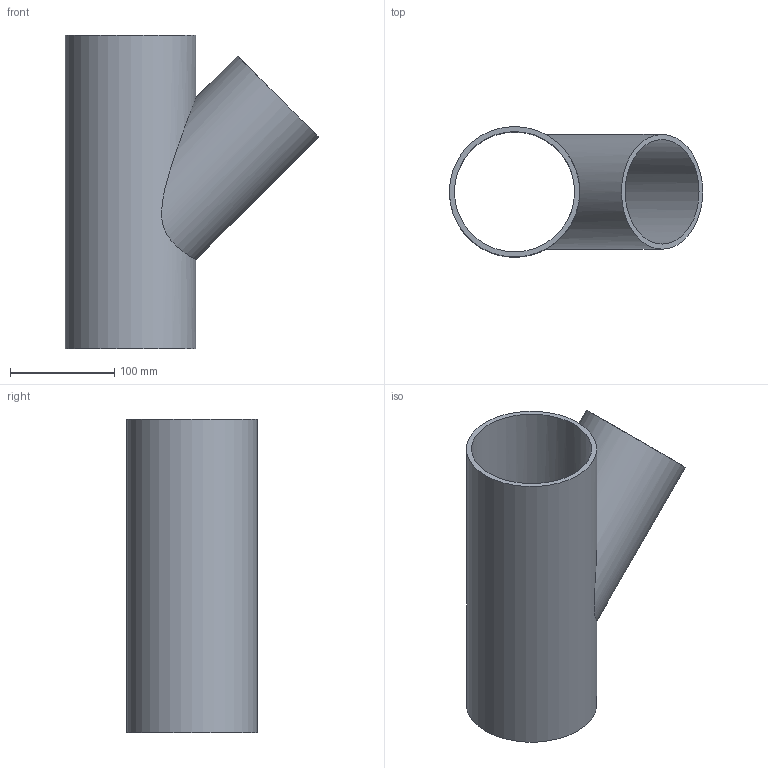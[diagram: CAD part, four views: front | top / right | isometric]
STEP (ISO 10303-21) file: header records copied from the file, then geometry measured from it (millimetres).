
FILE_DESCRIPTION(/* description */ (''),/* implementation_level */ '2;1');
FILE_NAME(/* name */ 'C:\Planerdaten\Export PLA\PRO_101557\stp\368135.stp',/* time_stamp */ '2021-09-30T15:07:29+02:00',/* author */ ('JANAN'),/* organization */ (''),/* preprocessor_version */ 'ST-DEVELOPER v16.13',/* originating_system */ 'Autodesk Inventor 2018',/* authorisation */ '');
FILE_SCHEMA (('AUTOMOTIVE_DESIGN { 1 0 10303 214 3 1 1 }'));
Length unit declared in the file: millimetre
Products named in the file (1): tmpA9BE.tmp
Bounding box: 242.81 x 125 x 300 mm (x, y, z)
Volume: 704702.5 mm3; surface area: 292626.9 mm2
Topology: 1 solids, 1 shells, 7 faces, 17 edges, 12 vertices
Faces by surface type: cylinder 4, plane 3
Full cylindrical faces by diameter (mm): 100.2 x1, 110 x1, 115.2 x1, 125 x1
Entity records: 376 total; most frequent: CARTESIAN_POINT 198, DIRECTION 28, EDGE_LOOP 16, ORIENTED_EDGE 16, AXIS2_PLACEMENT_3D 14, FACE_BOUND 9, VERTEX_POINT 8, EDGE_CURVE 8
